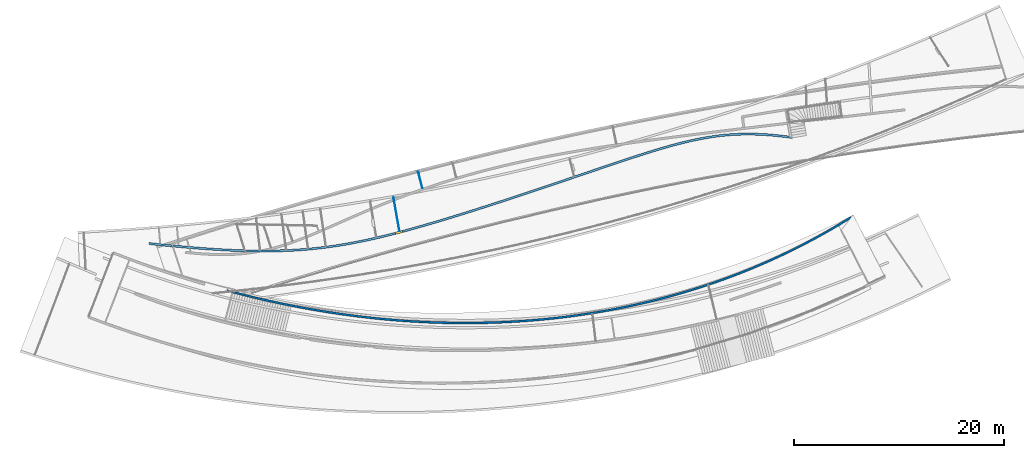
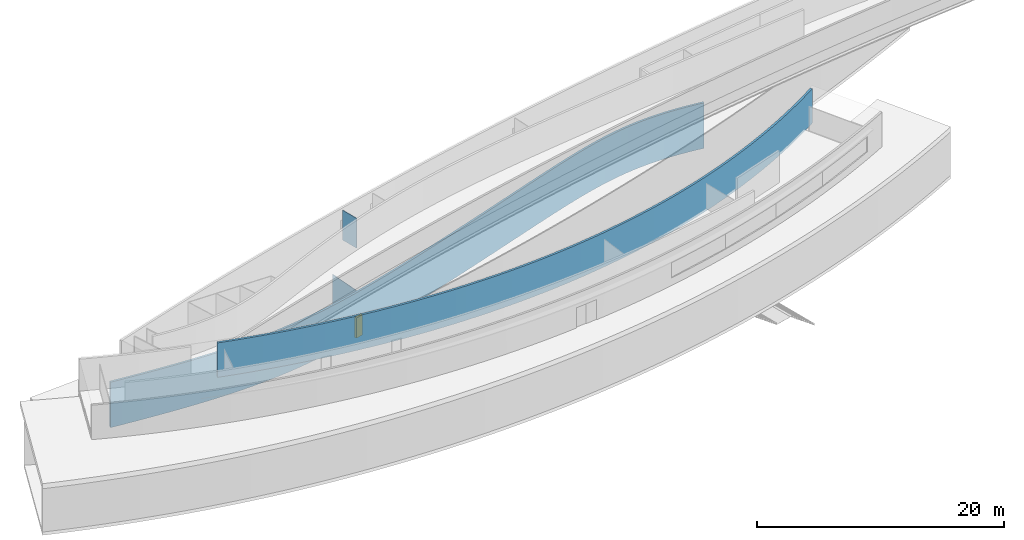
# Not in any storey, part 6 of 14: 4 walls, 1 door, 1 opening.
"""IFC2X3 model written with IfcOpenShell, lengths in millimetres."""

from ifc_helpers import new_model, entity, si_unit, converted_unit, point, direction, frame, frame_2d, origin_with_axes, origin_2d, place, context, project, spatial, polyline, circle_curve, trimmed, segment, composite_curve, rectangle, outline, extrude, source, transform, mapped, material, layer, layer_set, layer_usage, type_object, element, fill, save


model = new_model("IFC2X3")

# Units and contexts
model_context = context("Model", 3, precision=1.0, world=origin_with_axes(), true_north=direction((0.0, 1.0)))
ifc_project = project(units=[si_unit("LENGTHUNIT", "METRE", prefix="MILLI"), converted_unit("PLANEANGLEUNIT", "DEGREE", entity("IfcRatioMeasure", 0.017453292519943), si_unit("PLANEANGLEUNIT", "RADIAN"), dimensions=[0, 0, 0, 0, 0, 0, 0])], contexts=[model_context])

# Site
site_placement = place(None, origin_with_axes())
site = spatial("IfcSite", under=ifc_project, at=site_placement, Name="Site", CompositionType="ELEMENT")

# Wall, opening, door
ifc_material_1 = material(Name="Wall layer 1")
ifc_layer_1 = layer(ifc_material_1, 200.0)
ifc_layer_set_1 = layer_set([ifc_layer_1], Name="HOKI 350")
ifc_layer_usage_1 = layer_usage(ifc_layer_set_1, "AXIS2", "POSITIVE", -100.0)
wall_type_1 = type_object("IfcWallType", Name="HOKI 350", PredefinedType="STANDARD", material=ifc_layer_set_1)
wall_1_placement = place(site_placement, frame((-47255.0424746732, -3770.45746266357, 4500.0), z_axis=(0.0, 0.0, 1.0), x_axis=(0.994287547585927, -0.106734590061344, 0.0)))
wall_1 = element("IfcWallStandardCase", 1, at=wall_1_placement, inside=site, type_object=wall_type_1, material=ifc_layer_usage_1, ObjectType="HOKI 350", context=model_context, shape_type="SweptSolid", body=[
    extrude(outline(composite_curve([segment(polyline([(59901.1459302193, 16517.428230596), (59907.416893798, 16717.3298939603)]), True, "CONTINUOUS"), segment(polyline([(59907.416893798, 16717.3298939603), (59453.0758469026, 16729.078377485), (58998.9689791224, 16735.5290180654), (58545.0316690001, 16736.2610132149), (58091.1992950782, 16730.853560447), (57637.407235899, 16718.8858572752), (57183.5908700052, 16699.9371012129), (56729.6855759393, 16673.5864897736), (56275.6267322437, 16639.4132204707), (55885.9308964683, 16603.3293104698), (55496.8771059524, 16560.9023755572), (55108.5856629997, 16512.4005504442), (54721.1768699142, 16458.0919698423), (54407.4001308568, 16409.1085237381), (54094.4309369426, 16355.1794353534), (53782.3733560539, 16296.7033358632), (53471.3314560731, 16234.0788564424), (53122.5717656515, 16158.7126170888), (52774.9637275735, 16078.0095041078), (52428.6266252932, 15992.1633797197), (52083.6797422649, 15901.3681061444), (51671.320584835, 15786.0166304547), (51261.3709439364, 15664.2261371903), (50853.6488753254, 15536.3905559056), (50447.9724347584, 15402.903816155), (50044.1596779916, 15264.1598474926), (49642.0286607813, 15120.552579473), (49241.3974388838, 14972.4759416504), (48842.0840680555, 14820.3238635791), (48432.3405601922, 14659.8853157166), (48023.9558286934, 14495.9780872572), (47616.8997191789, 14328.9564422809), (47211.1420772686, 14159.174644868), (46589.1448560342, 13893.6560332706), (45969.1235058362, 13623.6364108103), (45350.8834476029, 13349.7521557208), (44734.2301022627, 13072.639646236), (43448.8481804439, 12486.7357190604), (42166.1521017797, 11895.4646908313), (37591.7128627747, 9776.22382544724), (36491.815469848, 9269.97138849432), (35390.9661813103, 8766.01198683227), (34288.9119663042, 8264.76315190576), (33185.3997939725, 7766.64241515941), (31804.6725307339, 7148.97185983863), (30421.2656546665, 6537.56708665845), (29314.7561484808, 6055.09088309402), (28205.9977474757, 5578.58469844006), (27650.5545823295, 5342.93343860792), (27094.2844385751, 5109.21037398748), (26537.0990645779, 4877.56073474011), (25978.9102087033, 4648.12975102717), (25275.851497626, 4363.39491750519), (24571.1864071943, 4083.4495818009), (23864.5116644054, 3808.7673882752), (23155.4239962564, 3539.82198128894), (22698.9005004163, 3370.50488090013), (22241.6299094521, 3204.20005414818), (21783.4614142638, 3041.09896079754), (21324.2442057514, 2881.39306061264), (20863.8274748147, 2725.27381335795), (20402.060412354, 2572.93267879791), (19938.792209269, 2424.56111669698), (19473.8720564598, 2280.35058681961), (18998.9078509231, 2138.10052845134), (18523.0874526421, 2000.90182267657), (18046.2434277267, 1868.83528504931), (17568.2083422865, 1741.98173112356), (17088.8147624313, 1620.42197645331), (16607.8952542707, 1504.23683659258), (16125.2823839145, 1393.50712709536), (15640.8087174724, 1288.31366351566), (15156.5543924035, 1189.15106734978), (14672.5594631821, 1095.89032885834), (14188.7059182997, 1008.33271570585), (13704.8757462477, 926.279495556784), (13220.9509355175, 849.53193607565), (12736.8134746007, 777.891304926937), (12252.3453519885, 711.158869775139), (11767.4285561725, 649.13589828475), (11281.9450756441, 591.623658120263), (10795.7768988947, 538.423416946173), (10308.8060144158, 489.336442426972), (9820.91441069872, 444.164002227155), (9331.98407623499, 402.707364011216), (8841.89699951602, 364.767795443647), (8350.53516903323, 330.146564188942), (7857.78057327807, 298.644937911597), (7412.09955212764, 272.740875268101), (6966.40680533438, 249.153567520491), (6520.67332222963, 227.766972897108), (6074.87009214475, 208.465049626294), (5182.93834836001, 175.651050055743), (4290.37948863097, 149.783234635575), (3754.12289557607, 137.204457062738), (3217.89821485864, 126.664704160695), (2145.4574268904, 111.256150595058), (1072.88279763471, 102.665330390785), (-7.276e-12, 100.0)]), True, "CONTINUOUS"), segment(polyline([(-7.276e-12, 100.0), (0.0, -100.0)]), True, "CONTINUOUS"), segment(polyline([(0.0, -100.0), (1073.84782833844, -97.3303036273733), (2147.75029441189, -88.7268220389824), (3221.64337620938, -73.2979665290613), (3758.5663911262, -62.7454020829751), (4295.46305171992, -50.1521483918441), (5189.38972886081, -24.2408804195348), (6083.17399437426, 8.64507243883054), (6529.98181837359, 27.9904808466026), (6976.71695418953, 49.4238706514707), (7423.36704006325, 73.0600119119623), (7869.9197142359, 99.0136746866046), (8363.714219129, 130.587113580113), (8856.32105002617, 165.309752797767), (9347.83659206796, 203.378961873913), (9838.35723039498, 244.992110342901), (10327.9793501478, 290.346567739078), (10816.799336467, 339.639703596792), (11304.9135744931, 393.068887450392), (11792.4184493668, 450.831488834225), (12279.4103462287, 513.124877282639), (12765.9856502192, 580.146422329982), (13252.240746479, 652.093493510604), (13738.2720201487, 729.16346035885), (14224.1758563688, 811.55369240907), (14710.04864028, 899.461559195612), (15195.9867570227, 993.084430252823), (15682.0865917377, 1092.61967511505), (16168.4838091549, 1198.23814578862), (16653.2799182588, 1309.48225472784), (17136.5425014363, 1426.24423566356), (17618.3391410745, 1548.41632232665), (18098.7374195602, 1675.89074844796), (18577.8049192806, 1808.55974775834), (19055.6092226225, 1946.31555398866), (19532.2179119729, 2089.05040086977), (19998.6146540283, 2233.72236599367), (20463.4946529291, 2382.61603285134), (20926.9402658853, 2535.51496928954), (21389.033850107, 2692.202743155), (21849.8577628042, 2852.46292229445), (22309.4943611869, 3016.07907455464), (22768.0260024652, 3182.83476778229), (23225.535043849, 3352.51356982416), (23936.0437233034, 3622.00035391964), (24644.2864180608, 3897.29309669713), (25350.4079909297, 4177.81424199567), (26054.5533047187, 4462.98623365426), (26613.3717916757, 4692.67655537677), (27171.2300245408, 4924.60681498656), (27728.1888083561, 5158.61972110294), (28284.3089481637, 5394.55798234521), (29394.2765159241, 5871.5814046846), (30501.6191681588, 6354.41875095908), (31885.9417310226, 6966.22853100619), (33267.4000608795, 7584.2254306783), (34371.3989864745, 8082.56612001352), (35473.9683220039, 8584.04930100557), (36575.2776769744, 9088.21896494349), (37675.4966608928, 9594.61910311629), (42250.101397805, 11713.9364128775), (43532.2073542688, 12304.9360828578), (44816.63465436, 12890.4049355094), (45432.4473098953, 13167.1417521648), (46049.4949606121, 13440.5000374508), (46668.187314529, 13709.9404671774), (47288.9340796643, 13974.9237171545), (47693.5636954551, 14144.2366466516), (48099.1146670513, 14310.6437053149), (48505.8837703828, 14473.9012723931), (48914.1677813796, 14633.7657271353), (49311.9348281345, 14785.3391271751), (49710.5251089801, 14932.683232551), (50110.2350216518, 15075.4478198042), (50511.3609638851, 15213.2826654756), (50914.1993334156, 15345.8375461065), (51319.0465279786, 15472.7622382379), (51726.1989453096, 15593.7065184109), (52135.9529831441, 15708.3201631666), (52478.3912482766, 15798.4660327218), (52821.6052712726, 15883.5467579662), (53166.0171101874, 15963.5010144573), (53512.0488230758, 16038.2674777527), (53820.7511303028, 16100.4315034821), (54129.7519542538, 16158.344452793), (54439.4856389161, 16211.7111645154), (54750.3865282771, 16260.236477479), (55135.127710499, 16314.1829911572), (55520.0687913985, 16362.2761280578), (55905.6722947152, 16404.319790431), (56292.4007441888, 16440.117880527), (56743.5736326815, 16474.0851953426), (57194.3234930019, 16500.2718564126), (57644.8504477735, 16519.0962590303), (58095.3546196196, 16530.9767984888), (58546.0361311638, 16536.3318700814), (58997.0951050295, 16535.5798691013), (59448.7316638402, 16529.1391908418), (59901.1459302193, 16517.428230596)]), True, "CONTINUOUS")], self_intersect="UNKNOWN")), origin_with_axes(), (0.0, 0.0, 1.0), 4500.0),
])
opening_placement = place(wall_1_placement, frame((23603.6348374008, 3602.76112968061, -9.09e-13), z_axis=(0.0, 0.0, 1.0), x_axis=(0.934754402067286, 0.355294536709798, -1e-15)))
opening = element("IfcOpeningElement", 2, at=opening_placement, cuts=wall_1, Name="Opening", ObjectType="Opening", context=model_context, shape_type="SweptSolid", body=[
    extrude(rectangle(XDim=700.0, YDim=2000.0, at=origin_2d()), frame((0.0, 600.0, 1000.0), z_axis=(0.0, -1.0, 0.0), x_axis=(1.0, 0.0, 0.0)), (0.0, 0.0, 1.0), 1200.0),
])
door_style = type_object("IfcDoorStyle", Name="Hinged (001)", ConstructionType="NOTDEFINED", OperationType="SINGLE_SWING_RIGHT", ParameterTakesPrecedence=True, Sizeable=False)
shared_shape = source(origin_with_axes(), model_context, "Body", "SweptSolid", [
    extrude(outline(composite_curve([segment(polyline([(0.0, 0.0), (0.0, 1950.0)]), True, "CONTINUOUS"), segment(polyline([(0.0, 1950.0), (600.0, 1950.0)]), True, "CONTINUOUS"), segment(polyline([(600.0, 1950.0), (600.0, 0.0)]), True, "CONTINUOUS"), segment(polyline([(600.0, 0.0), (650.0, 0.0)]), True, "CONTINUOUS"), segment(polyline([(650.0, 0.0), (650.0, 2000.0)]), True, "CONTINUOUS"), segment(polyline([(650.0, 2000.0), (-50.0, 2000.0)]), True, "CONTINUOUS"), segment(polyline([(-50.0, 2000.0), (-50.0, 0.0)]), True, "CONTINUOUS"), segment(polyline([(-50.0, 0.0), (0.0, 0.0)]), True, "CONTINUOUS")], self_intersect=False)), frame((300.0, -100.0, 0.0), z_axis=(0.0, 1.0, 0.0), x_axis=(-1.0, 0.0, 0.0)), (0.0, 0.0, 1.0), 199.999999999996),
    extrude(outline(composite_curve([segment(polyline([(0.0, 0.0), (0.0, 1950.0)]), True, "CONTINUOUS"), segment(polyline([(0.0, 1950.0), (-600.0, 1950.0)]), True, "CONTINUOUS"), segment(polyline([(-600.0, 1950.0), (-600.0, 0.0)]), True, "CONTINUOUS"), segment(polyline([(-600.0, 0.0), (0.0, 0.0)]), True, "CONTINUOUS")], self_intersect=False)), frame((-300.000000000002, 59.9999999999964, 0.0), z_axis=(9.1e-14, 1.0, 0.0), x_axis=(-1.0, 9.1e-14, 0.0)), (0.0, 0.0, 1.0), 40.0000000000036),
])
door_placement = place(opening_placement, frame((0.0, 0.0, 0.0), z_axis=(0.0, 0.0, 1.0), x_axis=(-1.0, 0.0, 1e-15)))
door = element("IfcDoor", 3, at=door_placement, inside=site, type_object=door_style, ObjectType="Hinged (001)", OverallHeight=2000.0, OverallWidth=700.0, shape_type="MappedRepresentation", body=[
    mapped(shared_shape, transform((0.0, 0.0, 0.0), scale=-1.0, scale2=1.0, scale3=1.0, uniform=False)),
])
fill(opening, door)

# Walls
wall_2_placement = place(site_placement, frame((19754.5076647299, -1252.90649335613, 9600.00525845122), z_axis=(0.0, 0.0, 1.0), x_axis=(-0.846721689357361, -0.532036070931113, 0.0)))
element("IfcWallStandardCase", 4, at=wall_2_placement, inside=site, type_object=wall_type_1, material=ifc_layer_usage_1, ObjectType="HOKI 350", context=model_context, shape_type="SweptSolid", body=[
    extrude(outline(composite_curve([segment(polyline([(54095.6873222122, -25834.2238540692), (54242.3925838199, -25698.2916422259)]), True, "CONTINUOUS"), segment(polyline([(54242.3925838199, -25698.2916422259), (53913.129579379, -25344.7251348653), (53582.2060276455, -24992.9570452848), (53249.6076846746, -24642.9830166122), (52915.3203065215, -24294.7986919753), (52579.3296492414, -23948.3997145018), (52241.6214688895, -23603.7817273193), (51902.181521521, -23260.9403735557), (51560.9955631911, -22919.8712963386), (51218.049349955, -22580.5701387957), (50873.3286378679, -22243.0325440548), (50526.8191829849, -21907.2541552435), (50178.5067413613, -21573.2306154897), (49828.3770690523, -21240.957567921), (49476.415922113, -20910.4306556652), (49122.6090565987, -20581.64552185), (48766.9422285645, -20254.597809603), (48408.7555812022, -19928.7103788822), (48048.8582908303, -19604.7535513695), (47687.2465065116, -19282.7381007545), (47323.9163773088, -18962.674800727), (46958.8640522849, -18644.5744249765), (46592.0856805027, -18328.4477471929), (46223.577411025, -18014.3055410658), (45853.3353929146, -17702.1585802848), (45483.6956053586, -17393.958387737), (45112.3977374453, -17087.8047345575), (44739.4366640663, -16783.7101225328), (44364.8072601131, -16481.6870534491), (43988.5044004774, -16181.748029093), (43610.5229600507, -15883.9055512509), (43230.8578137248, -15588.172121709), (42849.5038363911, -15294.5602422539), (42463.625953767, -15000.9473195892), (42076.0991541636, -14709.5779101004), (41686.9204214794, -14420.4608854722), (41296.0867396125, -14133.6051173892), (40903.5950924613, -13849.0194775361), (40509.4424639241, -13566.7128375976), (40113.6258378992, -13286.6940692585), (39716.1421982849, -13008.9720442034), (39320.4612648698, -12735.9350686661), (38923.227520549, -12465.232730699), (38524.4379358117, -12196.8744313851), (38124.0894811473, -11930.8695718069), (37722.1791270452, -11667.2275530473), (37318.7038439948, -11405.9577761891), (36913.6606024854, -11147.0696423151), (36507.0463730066, -10890.572552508), (36094.9311479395, -10634.0484752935), (35681.3109142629, -10380.0484724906), (35266.18054744, -10128.5840131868), (34849.5349229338, -9879.66656646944), (34431.3689162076, -9633.30760142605), (34011.6774027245, -9389.51858714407), (33590.4552579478, -9148.31099271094), (33167.6973573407, -8909.6962872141), (32747.9854417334, -8676.21968196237), (32326.878566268, -8445.37254584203), (31904.3706983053, -8217.16857471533), (31480.4558052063, -7991.62146444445), (31055.1278543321, -7768.74491089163), (30628.3808130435, -7548.55260991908), (30200.2086487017, -7331.05825738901), (29770.6053286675, -7116.27554916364), (29334.5549796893, -6901.78020490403), (28897.168461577, -6690.16739966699), (28458.4405190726, -6481.44670335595), (28018.3658969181, -6275.62768587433), (27576.9393398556, -6072.71991712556), (27134.1555926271, -5872.73296701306), (26690.0093999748, -5675.67640544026), (26244.4955066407, -5481.55980231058), (25803.2925628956, -5292.79902394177), (25360.9090024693, -5106.98653945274), (24917.3405129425, -4924.13122140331), (24472.5827818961, -4744.24194235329), (24026.6314969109, -4567.3275748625), (23579.4823455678, -4393.39699149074), (23131.1310154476, -4222.45906479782), (22681.573194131, -4054.52266734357), (22224.8595877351, -3887.44542325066), (21767.0785252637, -3723.53756175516), (21308.2235032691, -3562.81028451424), (20848.2880183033, -3405.27479318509), (20387.2655669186, -3250.94228942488), (19925.1496456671, -3099.82397489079), (19461.933751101, -2951.93105123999), (18997.6113797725, -2807.27472012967), (18538.7094311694, -2667.82743488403), (18078.9172316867, -2531.61338161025), (17618.2281343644, -2398.64614297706), (17156.6354922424, -2268.93930165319), (16694.1326583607, -2142.50644030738), (16230.7129857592, -2019.36114160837), (15766.3698274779, -1899.51698822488), (15301.0965365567, -1782.98756282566), (14828.2020643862, -1668.195596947), (14354.5669729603, -1556.90652256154), (13880.1845050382, -1449.12711167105), (13405.0479033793, -1344.86413627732), (12929.1504107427, -1244.12436838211), (12452.4852698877, -1146.91457998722), (11975.0457235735, -1053.24154309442), (11496.8250145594, -963.112029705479), (11025.041636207, -877.810559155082), (10552.7321654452, -796.003463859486), (10079.8908443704, -717.697545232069), (9606.51191507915, -642.899604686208), (9132.58961966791, -571.616443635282), (8658.11820023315, -503.854863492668), (8183.09189887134, -439.621665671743), (7707.50495767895, -378.923651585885), (7224.21686778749, -320.939611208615), (6740.60462310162, -266.647675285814), (6256.66050660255, -216.056801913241), (5772.37680127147, -169.175949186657), (5287.74579008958, -126.014075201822), (4802.75975603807, -86.5801380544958), (4317.41098209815, -50.8830958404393), (3831.69175125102, -18.9319066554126), (3353.11595522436, 8.85524014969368), (2874.44372398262, 32.9722034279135), (2395.66817900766, 53.4082665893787), (1916.78244178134, 70.1527130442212), (1437.77963378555, 83.1948262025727), (958.652876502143, 92.5238894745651), (479.395291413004, 98.1291862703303), (0.0, 100.0)]), True, "CONTINUOUS"), segment(polyline([(0.0, 100.0), (-1.819e-12, -99.9999999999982)]), True, "CONTINUOUS"), segment(polyline([(-1.819e-12, -99.9999999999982), (478.091515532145, -101.862139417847), (955.831680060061, -107.442959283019), (1433.29981633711, -116.734062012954), (1910.57524711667, -129.727050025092), (2387.73729515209, -146.413525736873), (2864.86528319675, -166.785091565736), (3342.03853400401, -190.833349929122), (3819.33637032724, -218.54990324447), (4303.76531912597, -250.412670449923), (4787.61258052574, -285.992618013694), (5270.95753745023, -325.287505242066), (5753.87957282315, -368.295091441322), (6236.4580695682, -415.013135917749), (6718.77241060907, -465.439397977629), (7200.90197886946, -519.571636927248), (7682.92615727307, -577.40761207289), (8157.27501513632, -637.944278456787), (8630.86054814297, -701.976386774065), (9103.75727693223, -769.507784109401), (9576.03972214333, -840.542317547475), (10047.7824044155, -915.083834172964), (10519.059844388, -993.136181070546), (10989.9465627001, -1074.7032053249), (11460.5170799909, -1159.7887540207), (11937.5129515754, -1249.68406909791), (12413.5280925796, -1343.07132953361), (12888.6371672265, -1439.95844831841), (13362.9148397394, -1540.35333844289), (13836.4357743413, -1644.26391289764), (14309.2746352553, -1751.69808467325), (14781.5060867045, -1862.6637667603), (15253.2047929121, -1977.1688721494), (15717.3140118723, -2093.40364745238), (16180.3075289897, -2212.89364339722), (16642.2560085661, -2335.64310728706), (17103.2301149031, -2461.65628642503), (17563.3005123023, -2590.93742811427), (18022.5378650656, -2723.49077965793), (18481.0128374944, -2859.32058835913), (18938.7960938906, -2998.43110152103), (19401.9960713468, -3142.73471815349), (19863.9103032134, -3290.20634300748), (20324.6070591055, -3440.85576269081), (20784.1546086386, -3594.69276381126), (21242.621221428, -3751.72713297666), (21700.075167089, -3911.9686567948), (22156.5847152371, -4075.4271218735), (22612.2181354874, -4242.11231482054), (23060.7206867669, -4409.65164700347), (23507.8476774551, -4580.11740568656), (23953.6615560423, -4753.52406218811), (24398.2247710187, -4929.88608782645), (24841.5997708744, -5109.21795391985), (25283.8490040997, -5291.53413178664), (25725.0349191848, -5476.8490927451), (26165.2199646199, -5665.17730811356), (26609.7117255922, -5858.84569732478), (27052.6730452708, -6055.37118844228), (27494.1653585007, -6254.77032182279), (27934.2501001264, -6457.0596378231), (28372.9887049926, -6662.25567679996), (28810.4426079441, -6870.37497911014), (29246.6732438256, -7081.43408511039), (29681.7420474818, -7295.44953515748), (30110.3911174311, -7509.7525085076), (30537.4595058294, -7726.68120885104), (30963.0053833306, -7946.24955382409), (31387.0869205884, -8168.47146106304), (31809.7622882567, -8393.36084820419), (32231.0896569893, -8620.93163288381), (32651.12719744, -8851.19773273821), (33069.9330802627, -9084.17306540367), (33491.7876998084, -9322.27534873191), (33911.9644909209, -9562.87946883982), (34330.5179983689, -9806.00334558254), (34747.5027669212, -10051.6648988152), (35162.9733413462, -10299.882048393), (35576.9842664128, -10550.6727141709), (35989.5900868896, -10804.0548160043), (36400.8453475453, -11060.0462737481), (36806.6187776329, -11316.0105141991), (37210.6883000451, -11574.2716482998), (37613.1030317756, -11834.8507542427), (38013.9120898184, -12097.7689102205), (38413.1645911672, -12363.0471944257), (38810.9096528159, -12630.7066850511), (39207.1963917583, -12900.7684602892), (39602.0739249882, -13173.2535983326), (39998.7562318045, -13450.413270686), (40393.645027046, -13729.7710145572), (40786.7872273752, -14011.3500338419), (41178.2297494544, -14295.1735324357), (41568.019509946, -14581.2647142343), (41956.2034255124, -14869.6467831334), (42342.8284128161, -15160.3429430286), (42727.9413885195, -15453.3763978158), (43108.5495955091, -15746.4117612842), (43487.3532100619, -16041.4697315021), (43864.3979581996, -16338.5704252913), (44239.7295659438, -16637.7339594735), (44613.3937593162, -16938.9804508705), (44985.4362643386, -17242.3300163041), (45355.9028070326, -17547.802772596), (45724.8391134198, -17855.418836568), (46094.3841544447, -18166.9759026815), (46462.0867776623, -18480.4270271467), (46827.988840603, -18795.794794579), (47192.1322007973, -19113.1017895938), (47554.5587157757, -19432.3705968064), (47915.3102430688, -19753.6238008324), (48274.428640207, -20076.883986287), (48631.9557647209, -20402.1737377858), (48987.0075322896, -20728.6534391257), (49340.1436930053, -21056.8093063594), (49691.38706133, -21386.6542591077), (50040.7604517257, -21718.2012169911), (50388.2866786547, -22051.4630996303), (50733.9885565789, -22386.4528266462), (51077.8888999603, -22723.1833176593), (51420.0105232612, -23061.6674922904), (51760.3762409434, -23401.9182701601), (52099.0088674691, -23743.9485708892), (52435.9312173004, -24087.7713140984), (52771.1661048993, -24433.3994194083), (53104.7363447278, -24780.8458064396), (53436.6647512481, -25130.1233948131), (53766.9741389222, -25481.2451041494), (54095.6873222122, -25834.2238540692)]), True, "CONTINUOUS")], self_intersect="UNKNOWN")), origin_with_axes(), (0.0, 0.0, 1.0), 3400.0),
])
ifc_material_2 = material(Name="Wall layer 1")
ifc_layer_2 = layer(ifc_material_2, 50.0)
ifc_layer_set_2 = layer_set([ifc_layer_2], Name="HOKI 50mm")
ifc_layer_usage_2 = layer_usage(ifc_layer_set_2, "AXIS2", "POSITIVE", -25.0)
wall_type_2 = type_object("IfcWallType", Name="HOKI 50mm", PredefinedType="STANDARD", material=ifc_layer_set_2)
wall_3_placement = place(site_placement, frame((-21112.0998151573, 1356.62654052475, 9850.0), z_axis=(0.0, 0.0, 1.0), x_axis=(-0.246883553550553, 0.969045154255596, 0.0)))
element("IfcWallStandardCase", 5, at=wall_3_placement, inside=site, type_object=wall_type_2, material=ifc_layer_usage_2, ObjectType="HOKI 50mm", context=model_context, shape_type="SweptSolid", body=[
    extrude(outline(composite_curve([segment(trimmed(circle_curve(frame_2d((-379706.257444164, -793.429537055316), x_axis=(0.999997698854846, 0.002145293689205)), 381499.997493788), [point((1792.86216275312, 24.9999999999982))], [point((1792.96615112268, -25.000000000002))], False, "CARTESIAN"), True, "CONTINUOUS"), segment(polyline([(1792.9661511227, -25.0000000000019), (154.659370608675, -25.0)]), True, "CONTINUOUS"), segment(polyline([(154.659370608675, -25.0), (150.495651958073, 25.0000000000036)]), True, "CONTINUOUS"), segment(polyline([(150.495651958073, 25.0000000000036), (1792.86216275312, 24.9999999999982)]), True, "CONTINUOUS")], self_intersect="UNKNOWN")), origin_with_axes(), (0.0, 0.0, 1.0), 2950.0),
])
wall_4_placement = place(site_placement, frame((-23340.4780234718, -2590.84323990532, 4500.0), z_axis=(0.0, 0.0, 1.0), x_axis=(-0.175862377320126, 0.984414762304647, 0.0)))
element("IfcWallStandardCase", 6, at=wall_4_placement, inside=site, type_object=wall_type_2, material=ifc_layer_usage_2, ObjectType="HOKI 50mm", context=model_context, shape_type="SweptSolid", body=[
    extrude(outline(composite_curve([segment(polyline([(3.96103033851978, -25.0), (-0.074126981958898, 25.0)]), True, "CONTINUOUS"), segment(polyline([(-0.074126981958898, 25.0), (3264.75956732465, 25.0)]), True, "CONTINUOUS"), segment(polyline([(3264.75956732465, 25.0), (3264.75956732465, -25.0000000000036)]), True, "CONTINUOUS"), segment(polyline([(3264.75956732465, -25.0000000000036), (3.96103033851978, -25.0)]), True, "CONTINUOUS")], self_intersect="UNKNOWN")), origin_with_axes(), (0.0, 0.0, 1.0), 4280.0),
])

save(model, "model.ifc")
